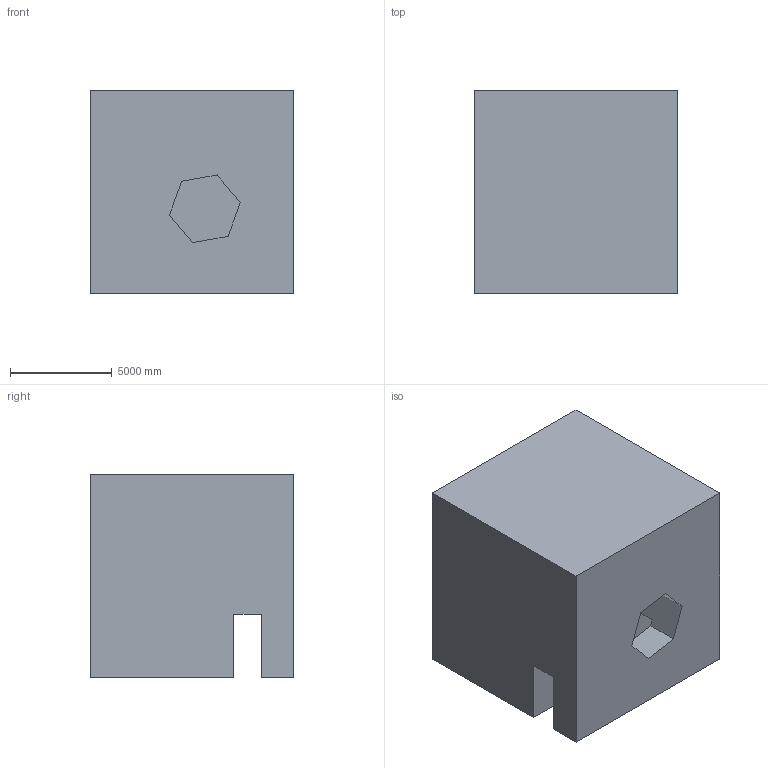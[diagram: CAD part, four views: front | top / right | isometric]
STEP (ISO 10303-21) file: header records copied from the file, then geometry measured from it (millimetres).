
FILE_DESCRIPTION (( 'STEP AP203' ), '1' );
FILE_NAME ('1346.STEP', '2022-08-18T13:58:11', ( 'user' ), ( '' ), 'SwSTEP 2.0', 'SolidWorks 2021', '' );
FILE_SCHEMA (( 'CONFIG_CONTROL_DESIGN' ));
Length unit declared in the file: centimetre
Products named in the file (1): 1346
Bounding box: 10000 x 10000 x 10000 mm (x, y, z)
Volume: 861604962000.8 mm3; surface area: 713987474.6 mm2
Topology: 1 solids, 1 shells, 24 faces, 66 edges, 44 vertices
Faces by surface type: plane 21, cylinder 3
Entity records: 837 total; most frequent: CARTESIAN_POINT 135, ORIENTED_EDGE 132, DIRECTION 122, EDGE_CURVE 66, VECTOR 60, LINE 60, VERTEX_POINT 44, AXIS2_PLACEMENT_3D 31
